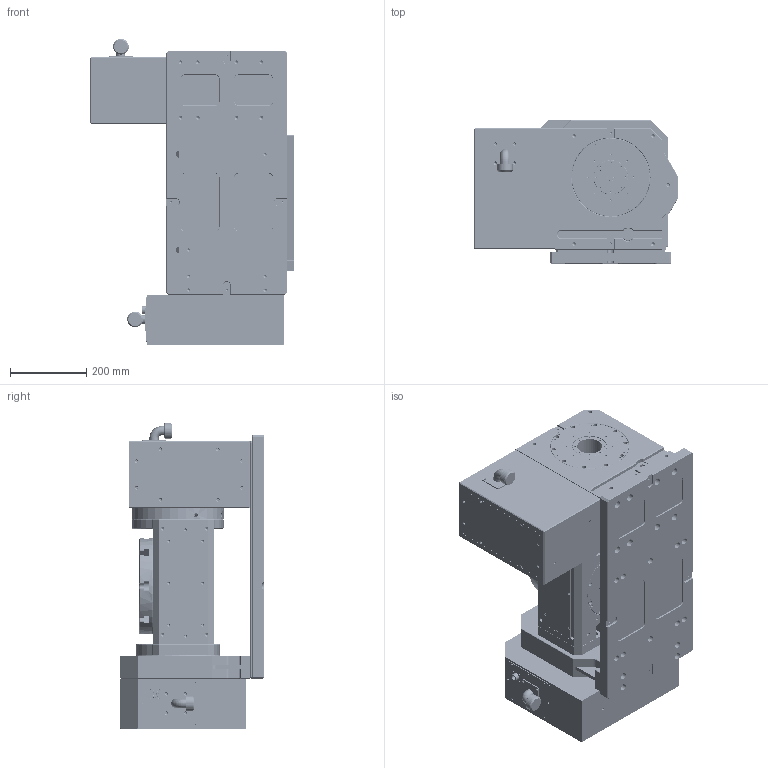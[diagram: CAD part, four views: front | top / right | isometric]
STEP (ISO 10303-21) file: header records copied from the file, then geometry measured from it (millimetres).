
FILE_DESCRIPTION (( 'STEP AP203' ), '1' );
FILE_NAME ('WDS-RT250 軞蚾饜芞 REV.01.STEP', '2022-09-03T06:51:48', ( '' ), ( '' ), 'SwSTEP 2.0', 'SolidWorks 2021', '' );
FILE_SCHEMA (( 'CONFIG_CONTROL_DESIGN' ));
Products named in the file (1): WDS-RT250 軞蚾饜芞 REV.01
Bounding box: 532 x 375 x 801 mm (x, y, z)
Volume: 46569554.2 mm3; surface area: 3836014.4 mm2
Topology: 21 solids, 33 shells, 3749 faces, 8869 edges, 5342 vertices
Faces by surface type: cylinder 1745, plane 1104, cone 764, torus 120, bspline 16
Entity records: 108691 total; most frequent: CARTESIAN_POINT 20592, DIRECTION 19822, ORIENTED_EDGE 17010, EDGE_CURVE 8505, AXIS2_PLACEMENT_3D 7842, VERTEX_POINT 5342, EDGE_LOOP 4693, VECTOR 4138
